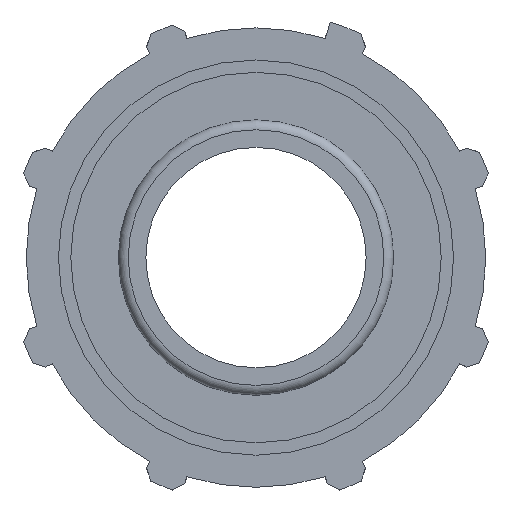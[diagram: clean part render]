
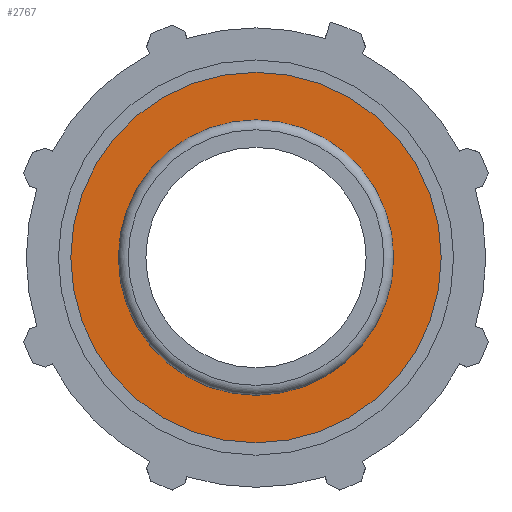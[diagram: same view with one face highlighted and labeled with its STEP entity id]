
A CAD part, left-side view. The second image highlights one B-rep face of the part: STEP entity #2767.
In plain terms, the highlighted planar face has unit normal (-1, 0, 0).
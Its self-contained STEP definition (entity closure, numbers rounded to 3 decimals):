
#585=PLANE('',#3074);
#611=FACE_BOUND('',#944,.T.);
#765=FACE_OUTER_BOUND('',#943,.T.);
#943=EDGE_LOOP('',(#2587));
#944=EDGE_LOOP('',(#2588));
#958=CIRCLE('',#2786,31.5);
#1102=CIRCLE('',#3075,42.375);
#1112=VERTEX_POINT('',#3910);
#1380=VERTEX_POINT('',#4863);
#1390=EDGE_CURVE('',#1112,#1112,#958,.T.);
#1784=EDGE_CURVE('',#1380,#1380,#1102,.T.);
#2587=ORIENTED_EDGE('',*,*,#1784,.F.);
#2588=ORIENTED_EDGE('',*,*,#1390,.T.);
#2767=ADVANCED_FACE('',(#765,#611),#585,.T.);
#2786=AXIS2_PLACEMENT_3D('',#3911,#3109,#3110);
#3074=AXIS2_PLACEMENT_3D('',#4862,#3875,#3876);
#3075=AXIS2_PLACEMENT_3D('',#4864,#3877,#3878);
#3109=DIRECTION('center_axis',(1.,0.,0.));
#3110=DIRECTION('ref_axis',(0.,0.,-1.));
#3875=DIRECTION('center_axis',(-1.,0.,0.));
#3876=DIRECTION('ref_axis',(0.,0.,1.));
#3877=DIRECTION('center_axis',(1.,0.,0.));
#3878=DIRECTION('ref_axis',(0.,0.,-1.));
#3910=CARTESIAN_POINT('',(-23.8,31.5,0.));
#3911=CARTESIAN_POINT('Origin',(-23.8,0.,0.));
#4862=CARTESIAN_POINT('Origin',(-23.8,42.375,0.));
#4863=CARTESIAN_POINT('',(-23.8,42.375,0.));
#4864=CARTESIAN_POINT('Origin',(-23.8,0.,0.));
